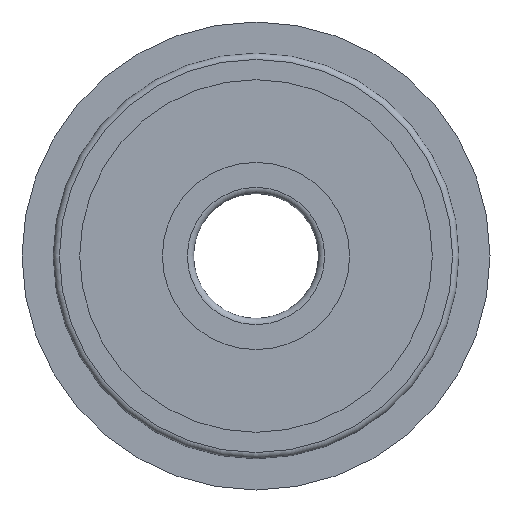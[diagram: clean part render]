
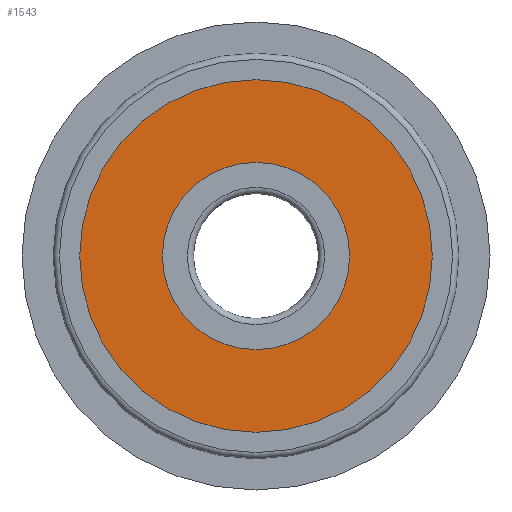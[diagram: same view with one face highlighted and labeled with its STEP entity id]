
A CAD part, left-side view. The second image highlights one B-rep face of the part: STEP entity #1543.
In plain terms, the highlighted planar face has unit normal (-1, 0, 0) as drawn and (1, 0, 0) by its records, which use the part's own axes.
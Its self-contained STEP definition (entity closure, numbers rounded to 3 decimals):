
#1443 = CYLINDRICAL_SURFACE('',#1444,3.);
#1444 = AXIS2_PLACEMENT_3D('',#1445,#1446,#1447);
#1445 = CARTESIAN_POINT('',(0.547,0.,0.));
#1446 = DIRECTION('',(-1.,-0.,0.));
#1447 = DIRECTION('',(-0.,0.,-1.));
#1478 = CYLINDRICAL_SURFACE('',#1479,5.65);
#1479 = AXIS2_PLACEMENT_3D('',#1480,#1481,#1482);
#1480 = CARTESIAN_POINT('',(0.547,0.,0.));
#1481 = DIRECTION('',(-1.,-0.,0.));
#1482 = DIRECTION('',(-0.,0.,-1.));
#1493 = EDGE_CURVE('',#1494,#1494,#1496,.T.);
#1494 = VERTEX_POINT('',#1495);
#1495 = CARTESIAN_POINT('',(0.547,0.,-3.));
#1496 = SURFACE_CURVE('',#1497,(#1502,#1509),.PCURVE_S1.);
#1497 = CIRCLE('',#1498,3.);
#1498 = AXIS2_PLACEMENT_3D('',#1499,#1500,#1501);
#1499 = CARTESIAN_POINT('',(0.547,0.,0.));
#1500 = DIRECTION('',(1.,0.,-0.));
#1501 = DIRECTION('',(-0.,0.,-1.));
#1502 = PCURVE('',#1443,#1503);
#1503 = DEFINITIONAL_REPRESENTATION('',(#1504),#1508);
#1504 = LINE('',#1505,#1506);
#1505 = CARTESIAN_POINT('',(6.283,0.));
#1506 = VECTOR('',#1507,1.);
#1507 = DIRECTION('',(-1.,0.));
#1508 = ( GEOMETRIC_REPRESENTATION_CONTEXT(2) 
PARAMETRIC_REPRESENTATION_CONTEXT() REPRESENTATION_CONTEXT('2D SPACE',''
  ) );
#1509 = PCURVE('',#1510,#1515);
#1510 = PLANE('',#1511);
#1511 = AXIS2_PLACEMENT_3D('',#1512,#1513,#1514);
#1512 = CARTESIAN_POINT('',(0.547,3.,0.));
#1513 = DIRECTION('',(1.,0.,-0.));
#1514 = DIRECTION('',(-0.,0.,-1.));
#1515 = DEFINITIONAL_REPRESENTATION('',(#1516),#1520);
#1516 = CIRCLE('',#1517,3.);
#1517 = AXIS2_PLACEMENT_2D('',#1518,#1519);
#1518 = CARTESIAN_POINT('',(0.,-3.));
#1519 = DIRECTION('',(1.,0.));
#1520 = ( GEOMETRIC_REPRESENTATION_CONTEXT(2) 
PARAMETRIC_REPRESENTATION_CONTEXT() REPRESENTATION_CONTEXT('2D SPACE',''
  ) );
#1543 = ADVANCED_FACE('',(#1544,#1570),#1510,.T.);
#1544 = FACE_BOUND('',#1545,.T.);
#1545 = EDGE_LOOP('',(#1546));
#1546 = ORIENTED_EDGE('',*,*,#1547,.T.);
#1547 = EDGE_CURVE('',#1548,#1548,#1550,.T.);
#1548 = VERTEX_POINT('',#1549);
#1549 = CARTESIAN_POINT('',(0.547,0.,-5.65));
#1550 = SURFACE_CURVE('',#1551,(#1556,#1563),.PCURVE_S1.);
#1551 = CIRCLE('',#1552,5.65);
#1552 = AXIS2_PLACEMENT_3D('',#1553,#1554,#1555);
#1553 = CARTESIAN_POINT('',(0.547,0.,0.));
#1554 = DIRECTION('',(1.,0.,-0.));
#1555 = DIRECTION('',(-0.,0.,-1.));
#1556 = PCURVE('',#1510,#1557);
#1557 = DEFINITIONAL_REPRESENTATION('',(#1558),#1562);
#1558 = CIRCLE('',#1559,5.65);
#1559 = AXIS2_PLACEMENT_2D('',#1560,#1561);
#1560 = CARTESIAN_POINT('',(0.,-3.));
#1561 = DIRECTION('',(1.,0.));
#1562 = ( GEOMETRIC_REPRESENTATION_CONTEXT(2) 
PARAMETRIC_REPRESENTATION_CONTEXT() REPRESENTATION_CONTEXT('2D SPACE',''
  ) );
#1563 = PCURVE('',#1478,#1564);
#1564 = DEFINITIONAL_REPRESENTATION('',(#1565),#1569);
#1565 = LINE('',#1566,#1567);
#1566 = CARTESIAN_POINT('',(6.283,0.));
#1567 = VECTOR('',#1568,1.);
#1568 = DIRECTION('',(-1.,0.));
#1569 = ( GEOMETRIC_REPRESENTATION_CONTEXT(2) 
PARAMETRIC_REPRESENTATION_CONTEXT() REPRESENTATION_CONTEXT('2D SPACE',''
  ) );
#1570 = FACE_BOUND('',#1571,.T.);
#1571 = EDGE_LOOP('',(#1572));
#1572 = ORIENTED_EDGE('',*,*,#1493,.F.);
